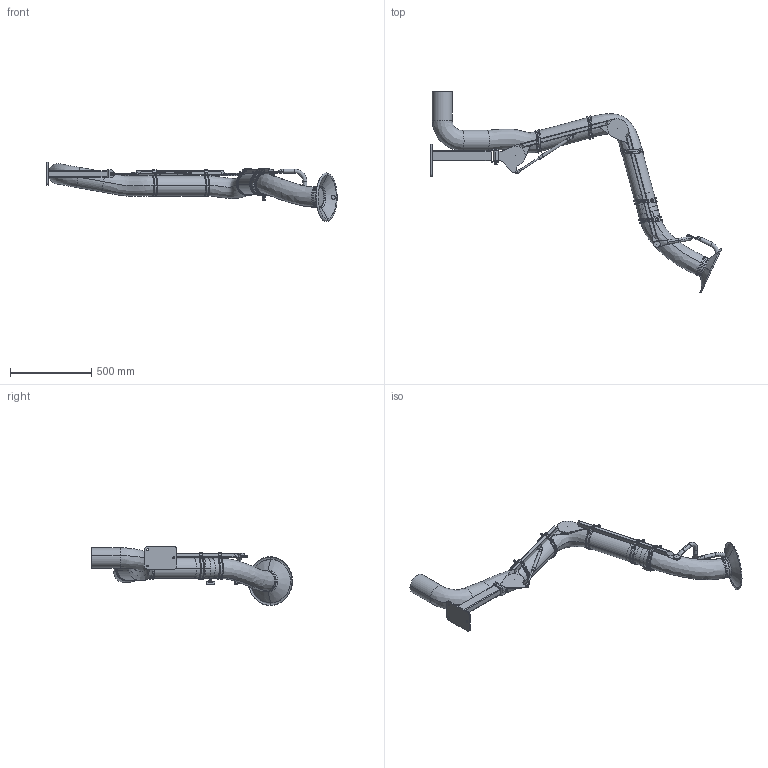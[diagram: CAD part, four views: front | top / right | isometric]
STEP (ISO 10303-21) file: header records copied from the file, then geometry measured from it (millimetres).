
FILE_DESCRIPTION((''),'2;1');
FILE_NAME('PSR_2000-125_D_EXD','2022-10-04T13:19:56',('Tomas Bellgran'),(''),'CREO PARAMETRIC BY PTC INC, 2018260','CREO PARAMETRIC BY PTC INC, 2018260','');
FILE_SCHEMA(('AUTOMOTIVE_DESIGN { 1 0 10303 214 1 1 1 1 }'));
Length unit declared in the file: millimetre
Products named in the file (42): 141554; 141580; 141581; 122701; 141512; 141556; 141582; 141587; 141522; 121391; 131150; 139381; 131151; 131171; 144356; 141589; 134343_AF0; G_P136_WELD-REF; 141590; 122717_LIGHT; 120127_COMPL_LIGHT; 130315; ROD_STAB_8-160-REF; 131095; 130320_AF34; 131145; 139635; 139656; 139614; 139630; 131206; 122291; 122295; 131216; 131219; 131221; 131201; 141621; 121080; 124460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
Assembly tree (57 placements, depth 4):
  PSR_2000-125_D_EXD
    141512
      141554
      141580
      141581
      122701
    141522
      141556
      141582
      141587
    121391  x4
    131150
    131171
      139381
      131151
    144356  x2
    141590
      141589
      134343_AF0
      G_P136_WELD-REF
    122717_LIGHT
    120127_COMPL_LIGHT
    130320_AF34
      130315
      ROD_STAB_8-160-REF
      131095  x2
    131145  x2
    139630
      139635  x3
      139656
      139614
    131201
      131206
      122295
        122291
      131221
        131216
        131219
    141621
    121080
    124460  x5
    107522-11  x5
Bounding box: 1785.47 x 1234.27 x 362.95 mm (x, y, z)
Volume: 33536229.5 mm3; surface area: 1897729.3 mm2
Topology: 48 solids, 48 shells, 1103 faces, 2621 edges, 1619 vertices
Faces by surface type: plane 397, cylinder 350, bspline 202, torus 68, cone 56, extrusion 15, revolution 13, sphere 2
Entity records: 40045 total; most frequent: CARTESIAN_POINT 13520, DIRECTION 3358, ORIENTED_EDGE 3082, PRESENTATION_STYLE_ASSIGNMENT 2166, STYLED_ITEM 2139, CURVE_STYLE 1561, EDGE_CURVE 1541, AXIS2_PLACEMENT_3D 1329
